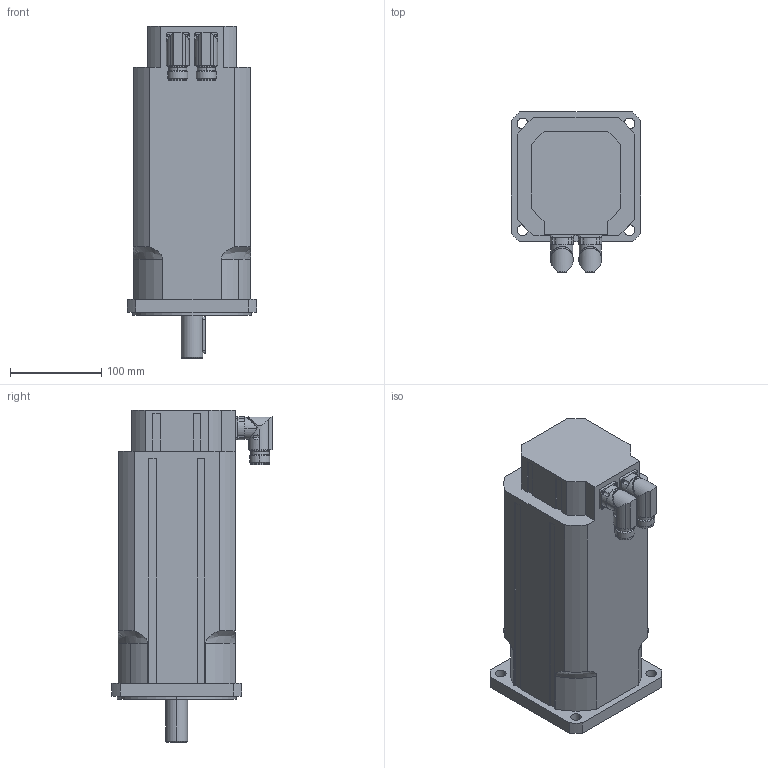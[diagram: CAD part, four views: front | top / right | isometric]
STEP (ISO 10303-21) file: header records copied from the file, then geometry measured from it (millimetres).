
FILE_DESCRIPTION(('STEP AP203'),'2;1');
FILE_NAME('MT5-1700_B.stp','2006-08-28T20:17:40',(''),(''),'2005.2.102','THINKDESIGN','');
FILE_SCHEMA(('CONFIG_CONTROL_DESIGN'));
Length unit declared in the file: millimetre
Bounding box: 142 x 175.5 x 363 mm (x, y, z)
Volume: 4767367.6 mm3; surface area: 216286.2 mm2
Topology: 3 solids, 3 shells, 255 faces, 679 edges, 439 vertices
Faces by surface type: cylinder 110, plane 107, bspline 38
Full cylindrical faces by diameter (mm): 20 x2
Entity records: 9316 total; most frequent: CARTESIAN_POINT 2863, ORIENTED_EDGE 1354, DIRECTION 1327, EDGE_CURVE 677, AXIS2_PLACEMENT_3D 493, VERTEX_POINT 439, VECTOR 341, LINE 341
